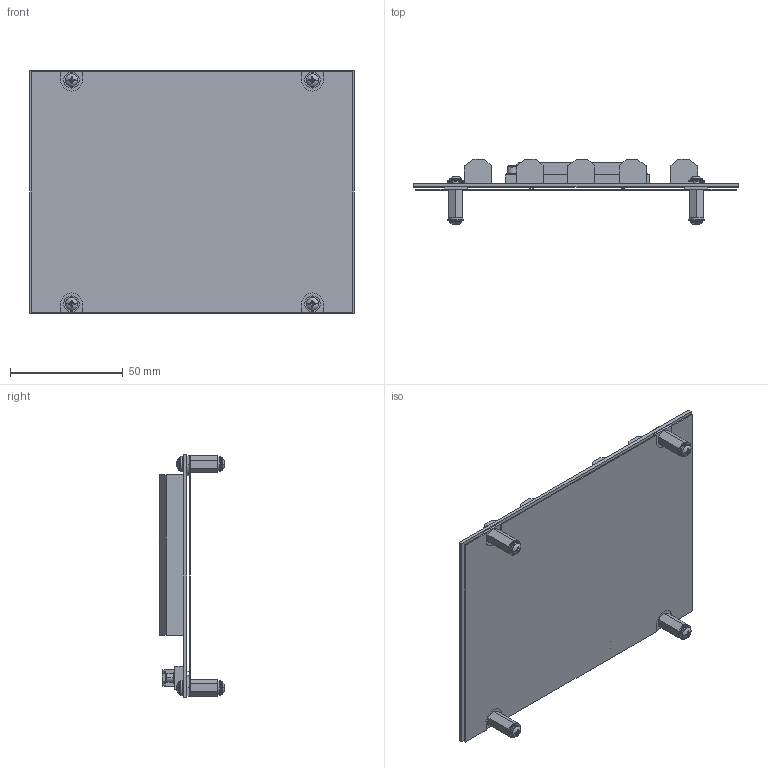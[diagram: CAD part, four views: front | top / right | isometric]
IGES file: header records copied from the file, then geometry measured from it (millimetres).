
Start section:  PTC IGES file: cu_cb-68lp.igs
Global section: file name: cu_cb-68lp.igs; native system: Creo Parametric by Parametric Technology Corporation; preprocessor: 2015280; author: dkendric; organization: Unknown; date: 20160309.095651; units: inch
Bounding box: 143.51 x 29 x 107.44 mm (x, y, z)
Surface area: 73108.1 mm2 (no closed solid volume)
Topology: 0 solids, 0 shells, 792 faces, 4004 edges, 3844 vertices
Faces by surface type: bspline 586, revolution 206
